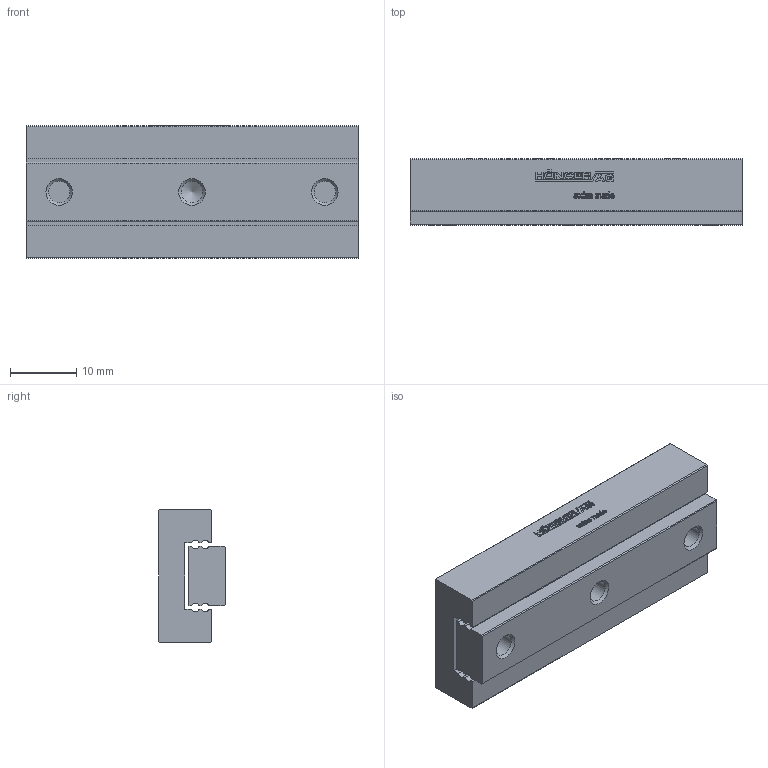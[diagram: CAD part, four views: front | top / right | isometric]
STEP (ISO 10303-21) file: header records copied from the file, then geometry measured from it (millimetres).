
FILE_DESCRIPTION(/* description */ ('STEP AP214'),/* implementation_level */ '2;1');
FILE_NAME(/* name */ 'MSK 9-50.42(0)',/* time_stamp */ '2025-04-16T17:00:50+02:00',/* author */ ('License CC BY-ND 4.0'),/* organization */ ('CADENAS'),/* preprocessor_version */ 'ST-DEVELOPER v19.3',/* originating_system */ 'PARTsolutions',/* authorisation */ ' ');
FILE_SCHEMA (('AUTOMOTIVE_DESIGN {1 0 10303 214 3 1 1}'));
Length unit declared in the file: millimetre
Products named in the file (3): MSK 9-50.42(0); MSK 9-50.42_1; MSK 9-50.42_2
Assembly tree (2 placements, depth 2):
  MSK 9-50.42(0)
    MSK 9-50.42_1
    MSK 9-50.42_2
Bounding box: 50 x 10 x 20 mm (x, y, z)
Volume: 7857.5 mm3; surface area: 5583.2 mm2
Topology: 2 solids, 2 shells, 538 faces, 1479 edges, 982 vertices
Faces by surface type: cylinder 313, plane 213, cone 12
Full cylindrical faces by diameter (mm): 2.459 x8, 3.242 x3, 6 x2
Entity records: 17297 total; most frequent: DIRECTION 3172, CARTESIAN_POINT 2976, ORIENTED_EDGE 2906, EDGE_CURVE 1453, AXIS2_PLACEMENT_3D 1178, VERTEX_POINT 982, LINE 816, VECTOR 816
